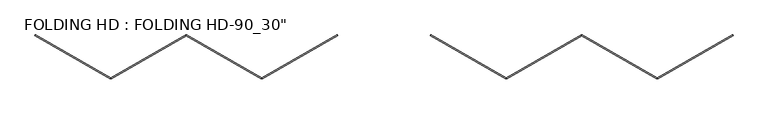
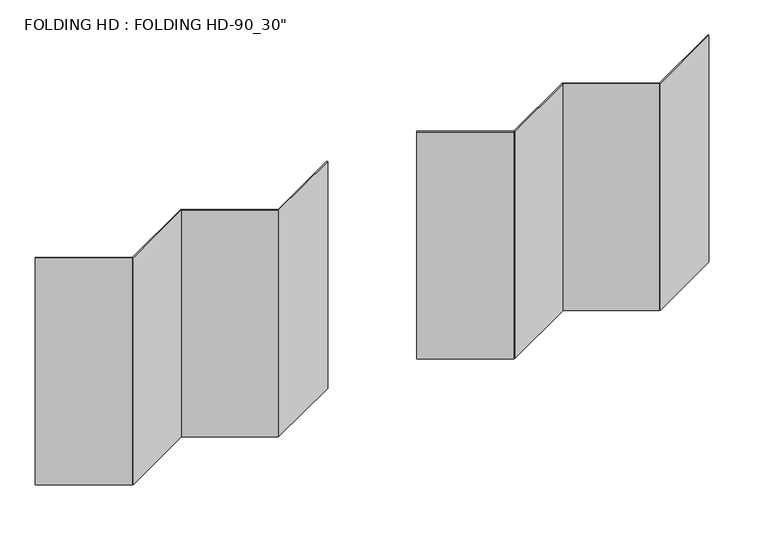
"""IFC4 building model written with IfcOpenShell, lengths in millimetres: plate geometry."""

import ifcopenshell
import ifcopenshell.guid

model = None  # the IFC model being written
_history = None  # IfcOwnerHistory: only IFC2X3 demands one
_inside = {}  # id of a spatial element -> (the spatial element, [elements in it])
_under = {}  # id of a project, library or spatial element -> (it, [spatial elements below it])
_declared = {}  # id of a project -> (the project, [libraries it declares])
_typed = {}  # id of a type object -> (the type object, [elements of that type])
_made_of = {}  # id of a material, layer set ... -> (it, [elements and type objects made of it])


def new_model(schema):
    """Start an empty IFC model of exactly this schema.

    Asked for "IFC4X3", IfcOpenShell would pick the latest addendum, in which some entities
    have other attributes; the version numbers below select the first issue.
    IFC2X3 requires an IfcOwnerHistory on every rooted entity: one is made here for all.
    """
    global model, _history
    if schema == "IFC4X3":
        model = ifcopenshell.file(schema_version=(4, 3, 0, 0))
    else:
        model = ifcopenshell.file(schema=schema)
    _inside.clear()
    _under.clear()
    _declared.clear()
    _typed.clear()
    _made_of.clear()
    _history = None
    if model.schema == "IFC2X3":
        org = make("IfcOrganization", Name="unknown")
        user = make(
            "IfcPersonAndOrganization",
            ThePerson=make("IfcPerson", FamilyName="unknown"),
            TheOrganization=org,
        )
        app = make(
            "IfcApplication",
            ApplicationDeveloper=org,
            Version="unknown",
            ApplicationFullName="unknown",
            ApplicationIdentifier="unknown",
        )
        _history = make(
            "IfcOwnerHistory",
            OwningUser=user,
            OwningApplication=app,
            ChangeAction="ADDED",
            CreationDate=0,
        )
    return model


def make(cls, **values):
    """One entity of the class cls with the attributes given. An attribute that is None is left unset."""
    return model.create_entity(
        cls, **{name: value for name, value in values.items() if value is not None}
    )


def rooted(cls, **values):
    """An entity with a GlobalId (a new one), such as an element, a storey or a relation."""
    return make(cls, GlobalId=ifcopenshell.guid.new(), OwnerHistory=_history, **values)


def si_unit(unit_type, name, prefix=None):
    """IfcSIUnit, for example si_unit("LENGTHUNIT", "METRE", prefix="MILLI")."""
    return make("IfcSIUnit", UnitType=unit_type, Prefix=prefix, Name=name)


def assignment(units):
    """IfcUnitAssignment: the units of a project."""
    return None if units is None else make("IfcUnitAssignment", Units=units)


def point(xyz):
    """IfcCartesianPoint."""
    return None if xyz is None else make("IfcCartesianPoint", Coordinates=xyz)


def direction(xyz):
    """IfcDirection."""
    return None if xyz is None else make("IfcDirection", DirectionRatios=xyz)


def frame(location, z_axis=None, x_axis=None):
    """IfcAxis2Placement3D, a coordinate frame: its origin and axes. An axis left out is left unset."""
    return make(
        "IfcAxis2Placement3D",
        Location=point(location),
        Axis=direction(z_axis),
        RefDirection=direction(x_axis),
    )


def origin():
    """The frame at (0, 0, 0) with its axes left unset."""
    return frame((0.0, 0.0, 0.0))


def origin_with_axes():
    """The frame at (0, 0, 0) with the z axis (0, 0, 1) and the x axis (1, 0, 0) written out."""
    return frame((0.0, 0.0, 0.0), z_axis=(0.0, 0.0, 1.0), x_axis=(1.0, 0.0, 0.0))


def place(relative_to, where):
    """IfcLocalPlacement: puts the frame where relative to a parent placement (None: the world)."""
    return make(
        "IfcLocalPlacement", PlacementRelTo=relative_to, RelativePlacement=where
    )


def context(
    kind, dimensions, precision=None, world=None, true_north=None, identifier=None
):
    """IfcGeometricRepresentationContext, for example the 3D "Model" context."""
    return make(
        "IfcGeometricRepresentationContext",
        ContextIdentifier=identifier,
        ContextType=kind,
        CoordinateSpaceDimension=dimensions,
        Precision=precision,
        WorldCoordinateSystem=world,
        TrueNorth=true_north,
    )


def project(units=None, contexts=None):
    """IfcProject with its units and contexts."""
    return rooted(
        "IfcProject",
        Name="project",
        RepresentationContexts=contexts,
        UnitsInContext=assignment(units),
    )


def spatial(cls, under=None, at=None, **own):
    """A site, building, storey or space (cls), placed at a placement, below another one or the project."""
    s = rooted(cls, ObjectPlacement=at, **own)
    if under is not None:
        _under.setdefault(under.id(), (under, []))[1].append(s)
    return s


def polyline(points):
    """IfcPolyline through the points."""
    return make("IfcPolyline", Points=[point(p) for p in points])


def outline(outer, holes=None, kind="AREA"):
    """IfcArbitraryClosedProfileDef: a profile drawn as a closed curve; with holes, ...WithVoids."""
    if holes is None:
        return make("IfcArbitraryClosedProfileDef", ProfileType=kind, OuterCurve=outer)
    return make(
        "IfcArbitraryProfileDefWithVoids",
        ProfileType=kind,
        OuterCurve=outer,
        InnerCurves=holes,
    )


def extrude(swept, where, along, depth):
    """IfcExtrudedAreaSolid: the profile swept, set in the frame where, extruded along a direction by depth."""
    return make(
        "IfcExtrudedAreaSolid",
        SweptArea=swept,
        Position=where,
        ExtrudedDirection=direction(along),
        Depth=depth,
    )


def shape(context_of_items, identifier, shape_type, items):
    """IfcShapeRepresentation: the items that make up one representation, for example the "Body"."""
    return make(
        "IfcShapeRepresentation",
        ContextOfItems=context_of_items,
        RepresentationIdentifier=identifier,
        RepresentationType=shape_type,
        Items=items,
    )


def source(mapping_origin, context_of_items, identifier, shape_type, items):
    """IfcRepresentationMap: a shape defined once, which mapped items show again and again."""
    return make(
        "IfcRepresentationMap",
        MappingOrigin=mapping_origin,
        MappedRepresentation=shape(context_of_items, identifier, shape_type, items),
    )


def transform(
    local_origin,
    x_axis=None,
    y_axis=None,
    z_axis=None,
    scale=None,
    scale2=None,
    scale3=None,
    uniform=True,
):
    """IfcCartesianTransformationOperator3D, or its non-uniform kind. x_axis, y_axis, z_axis: its Axis1, 2, 3."""
    if uniform:
        return make(
            "IfcCartesianTransformationOperator3D",
            Axis1=direction(x_axis),
            Axis2=direction(y_axis),
            LocalOrigin=point(local_origin),
            Scale=scale,
            Axis3=direction(z_axis),
        )
    return make(
        "IfcCartesianTransformationOperator3DnonUniform",
        Axis1=direction(x_axis),
        Axis2=direction(y_axis),
        LocalOrigin=point(local_origin),
        Scale=scale,
        Axis3=direction(z_axis),
        Scale2=scale2,
        Scale3=scale3,
    )


def mapped(mapping_source, mapping_target):
    """IfcMappedItem: shows the shape of a source again, moved by a transform."""
    return make(
        "IfcMappedItem", MappingSource=mapping_source, MappingTarget=mapping_target
    )


def made_of(thing, what):
    """Note that an element or type object is made of a material, layer set ...; save() writes the relation."""
    if what is not None:
        _made_of.setdefault(what.id(), (what, []))[1].append(thing)
    return thing


def element(
    cls,
    number,
    at=None,
    inside=None,
    cuts=None,
    type_object=None,
    material=None,
    context=None,
    identifier="Body",
    shape_type=None,
    held_by="IfcProductDefinitionShape",
    body=None,
    shapes=None,
    **own,
):
    """One element of the class cls, such as IfcWall. Its Tag is "e" and its number.

    at: its placement. inside: the storey or other place that contains it. cuts: it is an
    opening in that element (IfcRelVoidsElement). A single representation is given by context,
    identifier, shape_type and body (its items); several are given by shapes. held_by: the class
    of the entity that holds the representations. save() writes the other relations.
    """
    e = rooted(cls, Tag="e%d" % number, ObjectPlacement=at, **own)
    if body is not None:
        shapes = [shape(context, identifier, shape_type, body)]
    if shapes is not None:
        e.Representation = make(held_by, Representations=shapes)
    if inside is not None:
        _inside.setdefault(inside.id(), (inside, []))[1].append(e)
    if cuts is not None:
        rooted(
            "IfcRelVoidsElement", RelatingBuildingElement=cuts, RelatedOpeningElement=e
        )
    if type_object is not None:
        _typed.setdefault(type_object.id(), (type_object, []))[1].append(e)
    return made_of(e, material)


def aggregate(whole, parts):
    """IfcRelAggregates: a whole, such as a stair, and the parts it consists of."""
    return rooted("IfcRelAggregates", RelatingObject=whole, RelatedObjects=parts)


def save(model, path):
    """Write the relations noted so far, then the file.

    IfcRelAggregates (storeys below a building ...), IfcRelContainedInSpatialStructure (elements
    in a storey), IfcRelDefinesByType, IfcRelAssociatesMaterial and IfcRelDeclares: one each for
    every whole, place, type object, material and project.
    """
    for whole, parts in _under.values():
        aggregate(whole, parts)
    for where, things in _inside.values():
        rooted(
            "IfcRelContainedInSpatialStructure",
            RelatedElements=things,
            RelatingStructure=where,
        )
    for kind, things in _typed.values():
        rooted("IfcRelDefinesByType", RelatedObjects=things, RelatingType=kind)
    for what, things in _made_of.values():
        rooted("IfcRelAssociatesMaterial", RelatedObjects=things, RelatingMaterial=what)
    for by, libraries in _declared.values():
        rooted("IfcRelDeclares", RelatingContext=by, RelatedDefinitions=libraries)
    model.write(path)


def plate_e70df11b(model_context):
    return source(origin(), model_context, "Body", "SweptSolid", [
        extrude(outline(polyline([(2820.5771366, -450.0), (2815.5771366, -458.6602541), (2036.1542732, -8.660254), (2041.1542732, 0.0), (2820.5771366, -450.0)])), origin_with_axes(), (0.0, 0.0, 1.0), 2570.0),
        extrude(outline(polyline([(2820.5771366, -450.0), (3600.0, 0.0), (3605.0, -8.660254), (2825.5771366, -458.660254), (2820.5771366, -450.0)])), origin_with_axes(), (0.0, 0.0, 1.0), 2570.0),
        extrude(outline(polyline([(1261.7314098, -450.0), (2041.1542732, 0.0), (2046.1542732, -8.660254), (1266.7314098, -458.660254), (1261.7314098, -450.0)])), origin_with_axes(), (0.0, 0.0, 1.0), 2570.0),
        extrude(outline(polyline([(1261.7314098, -450.0), (1256.7314098, -458.660254), (477.3085464, -8.660254), (482.3085464, 0.0), (1261.7314098, -450.0)])), origin_with_axes(), (0.0, 0.0, 1.0), 2570.0),
        extrude(outline(polyline([(-1261.7314098, -450.0), (-1266.7314098, -458.660254), (-2046.1542732, -8.660254), (-2041.1542732, 0.0), (-1261.7314098, -450.0)])), origin_with_axes(), (0.0, 0.0, 1.0), 2570.0),
        extrude(outline(polyline([(-1261.7314098, -450.0), (-482.3085464, 0.0), (-477.3085464, -8.660254), (-1256.7314098, -458.660254), (-1261.7314098, -450.0)])), origin_with_axes(), (0.0, 0.0, 1.0), 2570.0),
        extrude(outline(polyline([(-2820.5771366, -450.0), (-2041.1542732, 0.0), (-2036.1542732, -8.660254), (-2815.5771366, -458.660254), (-2820.5771366, -450.0)])), origin_with_axes(), (0.0, 0.0, 1.0), 2570.0),
        extrude(outline(polyline([(-2820.5771366, -450.0), (-2825.5771366, -458.660254), (-3605.0, -8.660254), (-3600.0, 0.0), (-2820.5771366, -450.0)])), origin_with_axes(), (0.0, 0.0, 1.0), 2570.0),
    ])


if __name__ == "__main__":
    model = new_model("IFC4")
    model_context = context("Model", 3, world=origin())
    ifc_project = project(units=[si_unit("LENGTHUNIT", "METRE", prefix="MILLI")], contexts=[model_context])
    site = spatial("IfcSite", under=ifc_project)
    building = spatial("IfcBuilding", under=site)
    placement = place(None, origin())
    plate_shape = plate_e70df11b(model_context)
    element("IfcPlate", 1, ObjectType="FOLDING HD : FOLDING HD-90_30\"", at=placement, inside=building, context=model_context, shape_type="MappedRepresentation", body=[
        mapped(plate_shape, transform((0.0, 0.0, 0.0), x_axis=(1.0, 0.0, 0.0), y_axis=(0.0, 1.0, 0.0), z_axis=(0.0, 0.0, 1.0))),
    ])
    save(model, "model.ifc")
